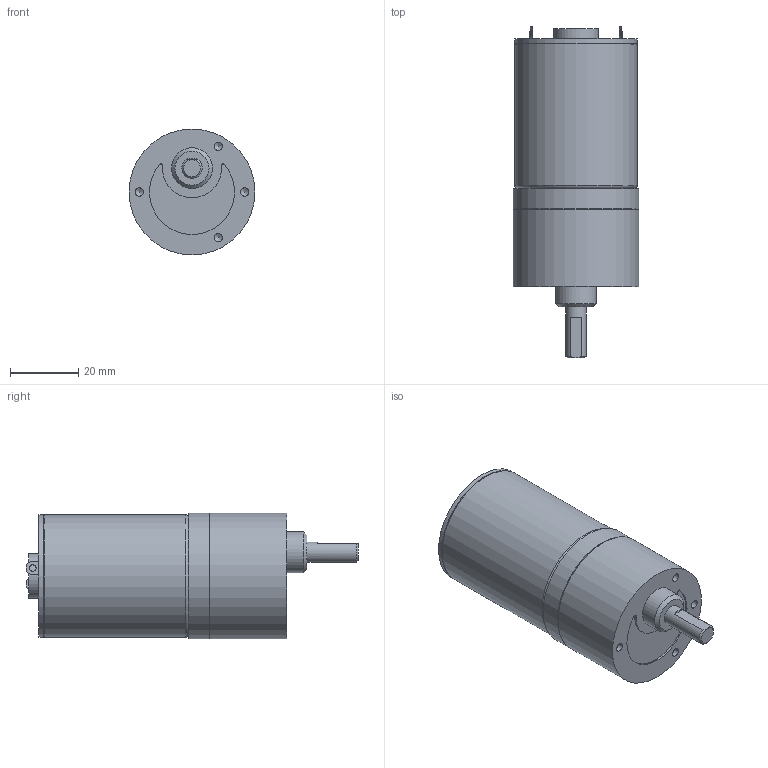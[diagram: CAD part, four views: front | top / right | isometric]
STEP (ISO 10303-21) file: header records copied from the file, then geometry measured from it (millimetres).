
FILE_DESCRIPTION((''),'2;1');
FILE_NAME('C:\Documents and Settings\SSEGAWA\デスクトップ\TP-3644D-HM-4.STP','2013-07-25T10:38:54',('SSEGAWA'),(''),'Autodesk Inventor 2010','Autodesk Inventor 2010','');
FILE_SCHEMA(('CONFIG_CONTROL_DESIGN'));
Length unit declared in the file: millimetre
Products named in the file (1): tp_3644dh_hm-4_Shrinkwrap_1
Bounding box: 37 x 97.6 x 37 mm (x, y, z)
Volume: 76918.9 mm3; surface area: 11645.7 mm2
Topology: 1 solids, 4 shells, 62 faces, 135 edges, 91 vertices
Faces by surface type: plane 26, cylinder 17, bspline 16, cone 2, torus 1
Full cylindrical faces by diameter (mm): 3 x1, 3.5 x1, 6 x1, 12 x1, 13 x1, 35.6 x1, 36 x2, 36.6 x1, 37 x2
Entity records: 1688 total; most frequent: CARTESIAN_POINT 494, DIRECTION 233, ORIENTED_EDGE 170, EDGE_LOOP 105, AXIS2_PLACEMENT_3D 103, EDGE_CURVE 85, VERTEX_POINT 70, STYLED_ITEM 63
